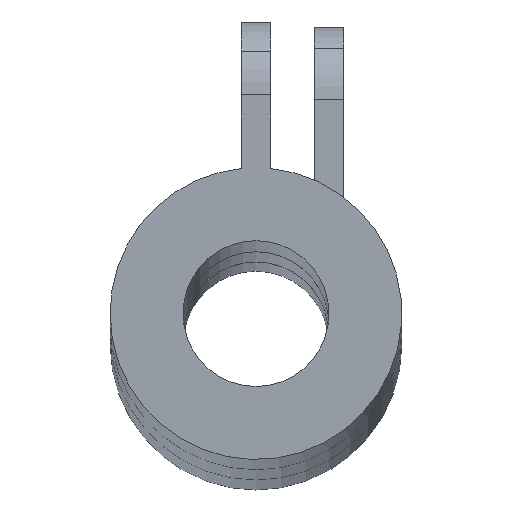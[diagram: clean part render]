
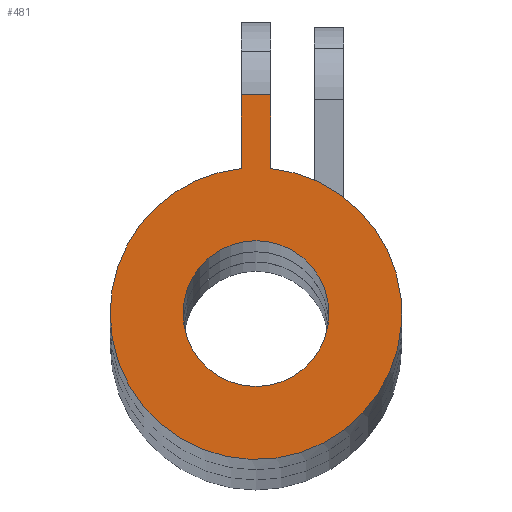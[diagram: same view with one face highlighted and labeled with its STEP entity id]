
A CAD part, top view. The second image highlights one B-rep face of the part: STEP entity #481.
In plain terms, the highlighted planar face has unit normal (0, 0, 1).
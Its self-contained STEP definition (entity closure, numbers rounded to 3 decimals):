
#55=FACE_BOUND('',#117,.T.);
#79=FACE_OUTER_BOUND('',#116,.T.);
#116=EDGE_LOOP('',(#399,#400,#401,#402,#403));
#117=EDGE_LOOP('',(#404));
#147=LINE('',#843,#175);
#151=LINE('',#854,#179);
#158=LINE('',#876,#186);
#175=VECTOR('',#675,10.);
#179=VECTOR('',#685,10.);
#186=VECTOR('',#712,10.);
#208=CIRCLE('',#602,5.);
#212=CIRCLE('',#609,10.);
#214=CIRCLE('',#611,10.);
#237=VERTEX_POINT('',#839);
#239=VERTEX_POINT('',#842);
#243=VERTEX_POINT('',#852);
#248=VERTEX_POINT('',#874);
#249=VERTEX_POINT('',#878);
#253=VERTEX_POINT('',#891);
#280=EDGE_CURVE('',#237,#239,#147,.T.);
#286=EDGE_CURVE('',#243,#237,#151,.T.);
#297=EDGE_CURVE('',#243,#248,#158,.T.);
#298=EDGE_CURVE('',#249,#249,#208,.T.);
#304=EDGE_CURVE('',#253,#239,#212,.T.);
#307=EDGE_CURVE('',#248,#253,#214,.T.);
#399=ORIENTED_EDGE('',*,*,#286,.F.);
#400=ORIENTED_EDGE('',*,*,#297,.T.);
#401=ORIENTED_EDGE('',*,*,#307,.T.);
#402=ORIENTED_EDGE('',*,*,#304,.T.);
#403=ORIENTED_EDGE('',*,*,#280,.F.);
#404=ORIENTED_EDGE('',*,*,#298,.T.);
#457=PLANE('',#612);
#481=ADVANCED_FACE('',(#79,#55),#457,.T.);
#602=AXIS2_PLACEMENT_3D('',#879,#715,#716);
#609=AXIS2_PLACEMENT_3D('',#892,#731,#732);
#611=AXIS2_PLACEMENT_3D('',#896,#736,#737);
#612=AXIS2_PLACEMENT_3D('',#897,#738,#739);
#675=DIRECTION('',(0.,-1.,0.));
#685=DIRECTION('',(1.,0.,0.));
#712=DIRECTION('',(0.,-1.,0.));
#715=DIRECTION('center_axis',(0.,0.,-1.));
#716=DIRECTION('ref_axis',(1.,0.,0.));
#731=DIRECTION('center_axis',(0.,0.,1.));
#732=DIRECTION('ref_axis',(1.,0.,0.));
#736=DIRECTION('center_axis',(0.,0.,1.));
#737=DIRECTION('ref_axis',(1.,0.,0.));
#738=DIRECTION('center_axis',(0.,0.,1.));
#739=DIRECTION('ref_axis',(1.,0.,0.));
#839=CARTESIAN_POINT('',(1.,15.,400.));
#842=CARTESIAN_POINT('',(1.,9.95,400.));
#843=CARTESIAN_POINT('',(1.,20.,400.));
#852=CARTESIAN_POINT('',(-1.,15.,400.));
#854=CARTESIAN_POINT('',(0.,15.,400.));
#874=CARTESIAN_POINT('',(-1.,9.95,400.));
#876=CARTESIAN_POINT('',(-1.,20.,400.));
#878=CARTESIAN_POINT('',(-5.,0.,400.));
#879=CARTESIAN_POINT('Origin',(0.,0.,400.));
#891=CARTESIAN_POINT('',(-10.,0.,400.));
#892=CARTESIAN_POINT('Origin',(0.,0.,400.));
#896=CARTESIAN_POINT('Origin',(0.,0.,400.));
#897=CARTESIAN_POINT('Origin',(0.,0.,400.));
